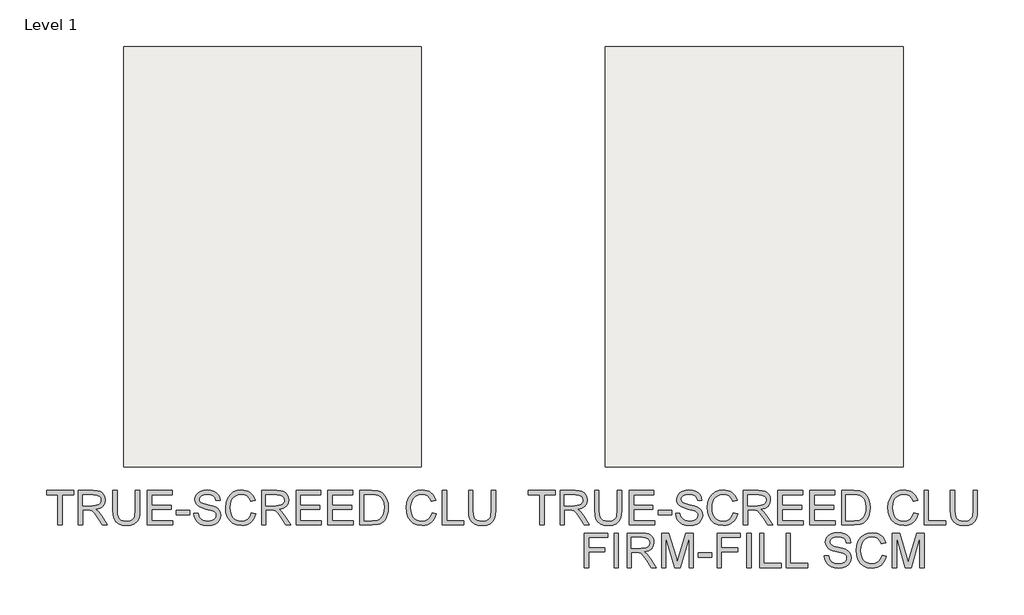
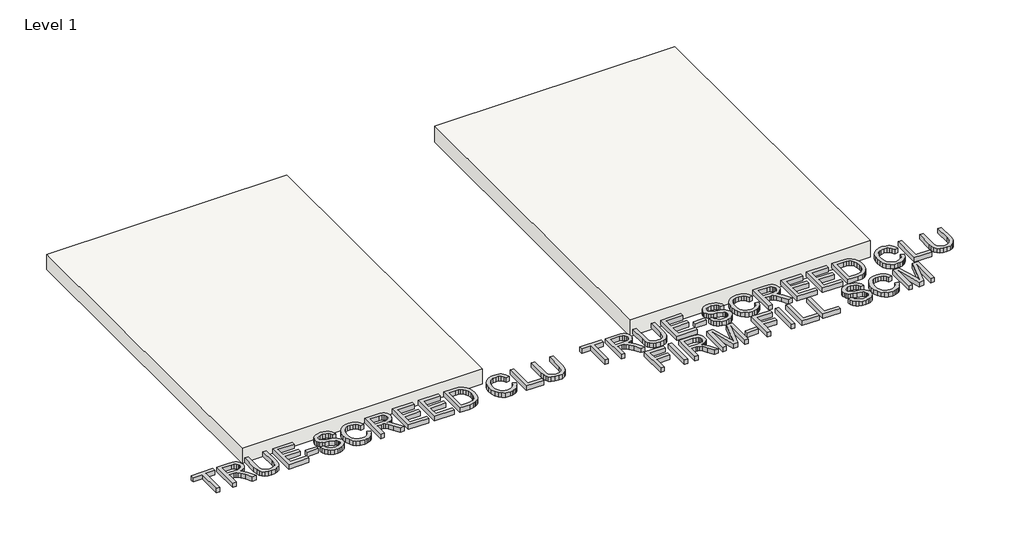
# One storey: 2 proxies, 2 slabs.
"""IFC4 building model written with IfcOpenShell, lengths in millimetres."""

import ifcopenshell
import ifcopenshell.guid

model = None  # the IFC model being written
_history = None  # IfcOwnerHistory: only IFC2X3 demands one
_inside = {}  # id of a spatial element -> (the spatial element, [elements in it])
_under = {}  # id of a project, library or spatial element -> (it, [spatial elements below it])
_declared = {}  # id of a project -> (the project, [libraries it declares])
_typed = {}  # id of a type object -> (the type object, [elements of that type])
_made_of = {}  # id of a material, layer set ... -> (it, [elements and type objects made of it])


def new_model(schema):
    """Start an empty IFC model of exactly this schema.

    Asked for "IFC4X3", IfcOpenShell would pick the latest addendum, in which some entities
    have other attributes; the version numbers below select the first issue.
    IFC2X3 requires an IfcOwnerHistory on every rooted entity: one is made here for all.
    """
    global model, _history
    if schema == "IFC4X3":
        model = ifcopenshell.file(schema_version=(4, 3, 0, 0))
    else:
        model = ifcopenshell.file(schema=schema)
    _inside.clear()
    _under.clear()
    _declared.clear()
    _typed.clear()
    _made_of.clear()
    _history = None
    if model.schema == "IFC2X3":
        org = make("IfcOrganization", Name="unknown")
        user = make(
            "IfcPersonAndOrganization",
            ThePerson=make("IfcPerson", FamilyName="unknown"),
            TheOrganization=org,
        )
        app = make(
            "IfcApplication",
            ApplicationDeveloper=org,
            Version="unknown",
            ApplicationFullName="unknown",
            ApplicationIdentifier="unknown",
        )
        _history = make(
            "IfcOwnerHistory",
            OwningUser=user,
            OwningApplication=app,
            ChangeAction="ADDED",
            CreationDate=0,
        )
    return model


def make(cls, **values):
    """One entity of the class cls with the attributes given. An attribute that is None is left unset."""
    return model.create_entity(
        cls, **{name: value for name, value in values.items() if value is not None}
    )


def rooted(cls, **values):
    """An entity with a GlobalId (a new one), such as an element, a storey or a relation."""
    return make(cls, GlobalId=ifcopenshell.guid.new(), OwnerHistory=_history, **values)


def si_unit(unit_type, name, prefix=None):
    """IfcSIUnit, for example si_unit("LENGTHUNIT", "METRE", prefix="MILLI")."""
    return make("IfcSIUnit", UnitType=unit_type, Prefix=prefix, Name=name)


def assignment(units):
    """IfcUnitAssignment: the units of a project."""
    return None if units is None else make("IfcUnitAssignment", Units=units)


def point(xyz):
    """IfcCartesianPoint."""
    return None if xyz is None else make("IfcCartesianPoint", Coordinates=xyz)


def direction(xyz):
    """IfcDirection."""
    return None if xyz is None else make("IfcDirection", DirectionRatios=xyz)


def frame(location, z_axis=None, x_axis=None):
    """IfcAxis2Placement3D, a coordinate frame: its origin and axes. An axis left out is left unset."""
    return make(
        "IfcAxis2Placement3D",
        Location=point(location),
        Axis=direction(z_axis),
        RefDirection=direction(x_axis),
    )


def origin():
    """The frame at (0, 0, 0) with its axes left unset."""
    return frame((0.0, 0.0, 0.0))


def origin_with_axes():
    """The frame at (0, 0, 0) with the z axis (0, 0, 1) and the x axis (1, 0, 0) written out."""
    return frame((0.0, 0.0, 0.0), z_axis=(0.0, 0.0, 1.0), x_axis=(1.0, 0.0, 0.0))


def place(relative_to, where):
    """IfcLocalPlacement: puts the frame where relative to a parent placement (None: the world)."""
    return make(
        "IfcLocalPlacement", PlacementRelTo=relative_to, RelativePlacement=where
    )


def context(
    kind, dimensions, precision=None, world=None, true_north=None, identifier=None
):
    """IfcGeometricRepresentationContext, for example the 3D "Model" context."""
    return make(
        "IfcGeometricRepresentationContext",
        ContextIdentifier=identifier,
        ContextType=kind,
        CoordinateSpaceDimension=dimensions,
        Precision=precision,
        WorldCoordinateSystem=world,
        TrueNorth=true_north,
    )


def project(units=None, contexts=None):
    """IfcProject with its units and contexts."""
    return rooted(
        "IfcProject",
        Name="project",
        RepresentationContexts=contexts,
        UnitsInContext=assignment(units),
    )


def spatial(cls, under=None, at=None, **own):
    """A site, building, storey or space (cls), placed at a placement, below another one or the project."""
    s = rooted(cls, ObjectPlacement=at, **own)
    if under is not None:
        _under.setdefault(under.id(), (under, []))[1].append(s)
    return s


def polyline(points):
    """IfcPolyline through the points."""
    return make("IfcPolyline", Points=[point(p) for p in points])


def outline(outer, holes=None, kind="AREA"):
    """IfcArbitraryClosedProfileDef: a profile drawn as a closed curve; with holes, ...WithVoids."""
    if holes is None:
        return make("IfcArbitraryClosedProfileDef", ProfileType=kind, OuterCurve=outer)
    return make(
        "IfcArbitraryProfileDefWithVoids",
        ProfileType=kind,
        OuterCurve=outer,
        InnerCurves=holes,
    )


def extrude(swept, where, along, depth):
    """IfcExtrudedAreaSolid: the profile swept, set in the frame where, extruded along a direction by depth."""
    return make(
        "IfcExtrudedAreaSolid",
        SweptArea=swept,
        Position=where,
        ExtrudedDirection=direction(along),
        Depth=depth,
    )


def shape(context_of_items, identifier, shape_type, items):
    """IfcShapeRepresentation: the items that make up one representation, for example the "Body"."""
    return make(
        "IfcShapeRepresentation",
        ContextOfItems=context_of_items,
        RepresentationIdentifier=identifier,
        RepresentationType=shape_type,
        Items=items,
    )


def made_of(thing, what):
    """Note that an element or type object is made of a material, layer set ...; save() writes the relation."""
    if what is not None:
        _made_of.setdefault(what.id(), (what, []))[1].append(thing)
    return thing


def element(
    cls,
    number,
    at=None,
    inside=None,
    cuts=None,
    type_object=None,
    material=None,
    context=None,
    identifier="Body",
    shape_type=None,
    held_by="IfcProductDefinitionShape",
    body=None,
    shapes=None,
    **own,
):
    """One element of the class cls, such as IfcWall. Its Tag is "e" and its number.

    at: its placement. inside: the storey or other place that contains it. cuts: it is an
    opening in that element (IfcRelVoidsElement). A single representation is given by context,
    identifier, shape_type and body (its items); several are given by shapes. held_by: the class
    of the entity that holds the representations. save() writes the other relations.
    """
    e = rooted(cls, Tag="e%d" % number, ObjectPlacement=at, **own)
    if body is not None:
        shapes = [shape(context, identifier, shape_type, body)]
    if shapes is not None:
        e.Representation = make(held_by, Representations=shapes)
    if inside is not None:
        _inside.setdefault(inside.id(), (inside, []))[1].append(e)
    if cuts is not None:
        rooted(
            "IfcRelVoidsElement", RelatingBuildingElement=cuts, RelatedOpeningElement=e
        )
    if type_object is not None:
        _typed.setdefault(type_object.id(), (type_object, []))[1].append(e)
    return made_of(e, material)


def aggregate(whole, parts):
    """IfcRelAggregates: a whole, such as a stair, and the parts it consists of."""
    return rooted("IfcRelAggregates", RelatingObject=whole, RelatedObjects=parts)


def save(model, path):
    """Write the relations noted so far, then the file.

    IfcRelAggregates (storeys below a building ...), IfcRelContainedInSpatialStructure (elements
    in a storey), IfcRelDefinesByType, IfcRelAssociatesMaterial and IfcRelDeclares: one each for
    every whole, place, type object, material and project.
    """
    for whole, parts in _under.values():
        aggregate(whole, parts)
    for where, things in _inside.values():
        rooted(
            "IfcRelContainedInSpatialStructure",
            RelatedElements=things,
            RelatingStructure=where,
        )
    for kind, things in _typed.values():
        rooted("IfcRelDefinesByType", RelatedObjects=things, RelatingType=kind)
    for what, things in _made_of.values():
        rooted("IfcRelAssociatesMaterial", RelatedObjects=things, RelatingMaterial=what)
    for by, libraries in _declared.values():
        rooted("IfcRelDeclares", RelatingContext=by, RelatedDefinitions=libraries)
    model.write(path)


model = new_model("IFC4")

# Units and contexts
model_context = context("Model", 3, world=origin())
ifc_project = project(units=[si_unit("LENGTHUNIT", "METRE", prefix="MILLI")], contexts=[model_context])

# Site, building, storey
site = spatial("IfcSite", under=ifc_project)
building = spatial("IfcBuilding", under=site)
storey = spatial("IfcBuildingStorey", under=building, Name="Level 1", Elevation=0.0)

# Proxies
placement = place(None, origin())
element("IfcBuildingElementProxy", 1, Name="600mm Arial", ObjectType="600mm Arial", at=placement, inside=storey, context=model_context, shape_type="SweptSolid", body=[
    extrude(outline(polyline([(-12285.7375133, -4415.8084594), (-12285.7375133, -4153.2115363), (-12384.2113594, -4153.2115363), (-12384.2113594, -4115.6976902), (-12149.749821, -4115.6976902), (-12149.749821, -4153.2115363), (-12248.2236671, -4153.2115363), (-12248.2236671, -4415.8084594), (-12285.7375133, -4415.8084594)])), origin_with_axes(), (0.0, 0.0, 1.0), 50.8),
    extrude(outline(polyline([(-12107.5467441, -4415.8084594), (-12107.5467441, -4115.6976902), (-11978.2265518, -4115.6976902), (-11943.4694604, -4117.7217527), (-11918.1824171, -4123.7939402), (-11899.7002537, -4135.0041325), (-11885.3578018, -4152.4422094), (-11876.1533546, -4174.0657911), (-11873.0852056, -4197.8324979), (-11878.1682585, -4227.3966325), (-11893.4174171, -4251.9051902), (-11904.9687693, -4261.8927022), (-11919.2906143, -4269.874469), (-11956.2457825, -4279.8207671), (-11934.9244364, -4295.8667286), (-11904.5177056, -4334.4796133), (-11854.474821, -4415.8084594), (-11898.0700133, -4415.8084594), (-11937.1225133, -4353.6028825), (-11965.3311671, -4312.4255748), (-11985.1504941, -4292.972594), (-12002.9915518, -4285.828844), (-12024.7525133, -4284.5099979), (-12070.0328979, -4284.5099979), (-12070.0328979, -4415.8084594), (-12107.5467441, -4415.8084594)]), holes=[polyline([(-12070.0328979, -4246.9961517), (-11986.0663594, -4246.9961517), (-11961.9516239, -4245.6681469), (-11943.2404941, -4241.6841325), (-11929.1544844, -4234.7785075), (-11918.9151094, -4224.685671), (-11912.6780662, -4212.4771854), (-11910.5990518, -4199.2246133), (-11914.5647489, -4180.9256229), (-11926.4618402, -4166.1801902), (-11946.9314316, -4156.4536998), (-11976.6146287, -4153.2115363), (-12070.0328979, -4153.2115363), (-12070.0328979, -4246.9961517)])]), origin_with_axes(), (0.0, 0.0, 1.0), 50.8),
    extrude(outline(polyline([(-11610.4882825, -4115.6976902), (-11572.9744364, -4115.6976902), (-11572.9744364, -4288.8328825), (-11575.5205421, -4329.3782431), (-11583.1588594, -4360.600094), (-11597.4280421, -4384.6873536), (-11619.8667441, -4403.8289402), (-11650.5299171, -4416.3305027), (-11689.4725133, -4420.4976902), (-11727.5633546, -4416.8708633), (-11758.0158787, -4405.9903825), (-11780.8392441, -4388.2317527), (-11796.0426094, -4363.9704786), (-11804.5876335, -4331.4297815), (-11807.4359748, -4288.8328825), (-11807.4359748, -4115.6976902), (-11769.9221287, -4115.6976902), (-11769.9221287, -4287.5140363), (-11768.0720806, -4321.2270411), (-11762.5219364, -4344.700671), (-11752.4657344, -4360.9572815), (-11737.0975133, -4373.0192286), (-11717.0583787, -4380.4926902), (-11692.9894364, -4382.983844), (-11654.8344844, -4378.0564883), (-11640.5515638, -4371.8972935), (-11629.4650133, -4363.274421), (-11621.1626936, -4351.1483633), (-11615.2324652, -4334.4796133), (-11610.4882825, -4287.5140363), (-11610.4882825, -4115.6976902)])), origin_with_axes(), (0.0, 0.0, 1.0), 50.8),
    extrude(outline(polyline([(-11507.3252056, -4415.8084594), (-11507.3252056, -4115.6976902), (-11291.6205902, -4115.6976902), (-11291.6205902, -4153.2115363), (-11469.8113594, -4153.2115363), (-11469.8113594, -4242.306921), (-11300.9990518, -4242.306921), (-11300.9990518, -4279.8207671), (-11469.8113594, -4279.8207671), (-11469.8113594, -4378.2946133), (-11286.9313594, -4378.2946133), (-11286.9313594, -4415.8084594), (-11507.3252056, -4415.8084594)])), origin_with_axes(), (0.0, 0.0, 1.0), 50.8),
    extrude(outline(polyline([(-11254.1067441, -4326.7130748), (-11254.1067441, -4289.1992286), (-11136.8759748, -4289.1992286), (-11136.8759748, -4326.7130748), (-11254.1067441, -4326.7130748)])), origin_with_axes(), (0.0, 0.0, 1.0), 50.8),
    extrude(outline(polyline([(-11104.0513594, -4312.6453825), (-11066.5375133, -4312.6453825), (-11062.232946, -4333.4630027), (-11054.4480902, -4350.1958633), (-11042.3037152, -4363.4759113), (-11024.9205902, -4373.935094), (-11003.6725133, -4380.7216565), (-10979.9332825, -4382.983844), (-10959.0332344, -4381.2711758), (-10940.7342441, -4376.133171), (-10925.9063835, -4368.0002863), (-10915.4197248, -4357.3029786), (-10909.1826816, -4345.0212238), (-10907.1036671, -4332.1349979), (-10908.6606383, -4319.5784835), (-10913.3315518, -4308.7254786), (-10922.8199171, -4299.4660796), (-10938.8292441, -4291.6903825), (-10993.4514556, -4277.3662479), (-11029.3075854, -4267.8870411), (-11052.2500133, -4258.8657671), (-11070.9245085, -4246.2451421), (-11084.1587633, -4230.9501902), (-11092.0443643, -4213.3106229), (-11094.6728979, -4193.6561517), (-11091.4215758, -4171.6845411), (-11081.6676094, -4151.1966325), (-11065.6674412, -4133.8318248), (-11043.6775133, -4121.2295171), (-11017.2822729, -4113.5637238), (-10988.0661671, -4111.0084594), (-10956.4138594, -4113.6827863), (-10928.7180902, -4121.7057671), (-10905.9679941, -4134.912546), (-10889.1527056, -4153.1382671), (-10878.5103498, -4175.2472575), (-10874.2790518, -4200.103844), (-10911.7928979, -4200.103844), (-10918.6802056, -4177.720094), (-10933.0409748, -4161.5642286), (-10955.4796768, -4151.7827863), (-10986.6007825, -4148.5223056), (-11018.4545806, -4151.7461517), (-11040.3071287, -4161.4176902), (-11052.946071, -4175.6502383), (-11057.1590518, -4192.5571133), (-11054.1733306, -4206.9728344), (-11045.2161671, -4218.5676902), (-11024.0413594, -4228.9352863), (-10983.9630902, -4239.5226902), (-10942.6026094, -4249.5788921), (-10917.5811671, -4258.3528825), (-10896.1957104, -4271.9626421), (-10881.2762633, -4288.7596133), (-10872.5114316, -4308.5606229), (-10869.589821, -4331.1824979), (-10872.9510469, -4354.3080988), (-10883.0347248, -4376.0599017), (-10899.4287152, -4394.7801902), (-10921.7208787, -4408.8112479), (-10948.5282585, -4417.5760796), (-10978.4678979, -4420.4976902), (-11015.2215758, -4417.3471133), (-11045.4726094, -4407.8953825), (-11069.5690277, -4392.1058633), (-11087.8588594, -4369.941921), (-11099.6002537, -4342.9422094), (-11104.0513594, -4312.6453825)])), origin_with_axes(), (0.0, 0.0, 1.0), 50.8),
    extrude(outline(polyline([(-10602.3036671, -4309.1284594), (-10564.789821, -4318.7999979), (-10572.2129099, -4342.1293789), (-10582.0996768, -4362.5142527), (-10594.4501215, -4379.9546193), (-10609.2642441, -4394.4504786), (-10626.2077537, -4405.8461337), (-10644.9463594, -4413.9858873), (-10665.4800614, -4418.8697395), (-10687.8088594, -4420.4976902), (-10731.3216239, -4415.5703344), (-10765.8772248, -4400.7882671), (-10792.3640518, -4376.6643729), (-10811.6704941, -4343.7115363), (-10823.4576816, -4304.9704306), (-10827.3867441, -4263.4817286), (-10822.9447969, -4219.7216806), (-10809.6189556, -4181.9330748), (-10788.1052777, -4151.315695), (-10759.099821, -4129.0693248), (-10724.6999171, -4115.5236758), (-10687.0028979, -4111.0084594), (-10645.8713835, -4116.8516806), (-10627.9776635, -4124.155707), (-10611.8653018, -4134.381344), (-10597.7998991, -4147.2584113), (-10586.0470566, -4162.5167286), (-10569.4790518, -4200.1771133), (-10606.9928979, -4209.1159594), (-10619.9981864, -4181.7590604), (-10637.7659748, -4162.9929786), (-10660.516071, -4152.1399738), (-10688.4682825, -4148.5223056), (-10720.6884268, -4152.533796), (-10747.1569364, -4164.5682671), (-10767.2418643, -4183.3618248), (-10780.3112633, -4207.6505748), (-10787.4824893, -4235.108219), (-10789.8728979, -4263.4084594), (-10787.0428739, -4298.0648056), (-10778.5528018, -4328.031921), (-10764.0821287, -4352.1649738), (-10743.3103018, -4369.3191325), (-10718.4079219, -4379.5676661), (-10691.5455902, -4382.983844), (-10660.2321527, -4378.3312479), (-10634.1391479, -4364.3734594), (-10614.4388835, -4341.2570171), (-10602.3036671, -4309.1284594)])), origin_with_axes(), (0.0, 0.0, 1.0), 50.8),
    extrude(outline(polyline([(-10513.2082825, -4415.8084594), (-10513.2082825, -4115.6976902), (-10383.8880902, -4115.6976902), (-10349.1309989, -4117.7217527), (-10323.8439556, -4123.7939402), (-10305.3617921, -4135.0041325), (-10291.0193402, -4152.4422094), (-10281.8148931, -4174.0657911), (-10278.7467441, -4197.8324979), (-10283.8297969, -4227.3966325), (-10299.0789556, -4251.9051902), (-10310.6303078, -4261.8927022), (-10324.9521527, -4269.874469), (-10361.907321, -4279.8207671), (-10340.5859748, -4295.8667286), (-10310.1792441, -4334.4796133), (-10260.1363594, -4415.8084594), (-10303.7315518, -4415.8084594), (-10342.7840518, -4353.6028825), (-10370.9927056, -4312.4255748), (-10390.8120325, -4292.972594), (-10408.6530902, -4285.828844), (-10430.4140518, -4284.5099979), (-10475.6944364, -4284.5099979), (-10475.6944364, -4415.8084594), (-10513.2082825, -4415.8084594)]), holes=[polyline([(-10475.6944364, -4246.9961517), (-10391.7278979, -4246.9961517), (-10367.6131623, -4245.6681469), (-10348.9020325, -4241.6841325), (-10334.8160229, -4234.7785075), (-10324.5766479, -4224.685671), (-10318.3396046, -4212.4771854), (-10316.2605902, -4199.2246133), (-10320.2262873, -4180.9256229), (-10332.1233787, -4166.1801902), (-10352.59297, -4156.4536998), (-10382.2761671, -4153.2115363), (-10475.6944364, -4153.2115363), (-10475.6944364, -4246.9961517)])]), origin_with_axes(), (0.0, 0.0, 1.0), 50.8),
    extrude(outline(polyline([(-10213.0975133, -4415.8084594), (-10213.0975133, -4115.6976902), (-9997.3928979, -4115.6976902), (-9997.3928979, -4153.2115363), (-10175.5836671, -4153.2115363), (-10175.5836671, -4242.306921), (-10006.7713594, -4242.306921), (-10006.7713594, -4279.8207671), (-10175.5836671, -4279.8207671), (-10175.5836671, -4378.2946133), (-9992.7036671, -4378.2946133), (-9992.7036671, -4415.8084594), (-10213.0975133, -4415.8084594)])), origin_with_axes(), (0.0, 0.0, 1.0), 50.8),
    extrude(outline(polyline([(-9936.4328979, -4415.8084594), (-9936.4328979, -4115.6976902), (-9720.7282825, -4115.6976902), (-9720.7282825, -4153.2115363), (-9898.9190518, -4153.2115363), (-9898.9190518, -4242.306921), (-9730.1067441, -4242.306921), (-9730.1067441, -4279.8207671), (-9898.9190518, -4279.8207671), (-9898.9190518, -4378.2946133), (-9716.0390518, -4378.2946133), (-9716.0390518, -4415.8084594), (-9936.4328979, -4415.8084594)])), origin_with_axes(), (0.0, 0.0, 1.0), 50.8),
    extrude(outline(polyline([(-9659.7682825, -4415.8084594), (-9659.7682825, -4115.6976902), (-9556.2388594, -4115.6976902), (-9502.6790518, -4120.0205748), (-9478.7566479, -4128.3549498), (-9458.5709748, -4141.4884594), (-9437.8174652, -4164.3484594), (-9423.0353979, -4192.776921), (-9414.1881383, -4226.2243248), (-9411.2390518, -4264.1411517), (-9413.2356383, -4296.3521373), (-9419.2253979, -4324.698171), (-9428.3474171, -4348.8312238), (-9439.7407825, -4368.4032671), (-9452.8559748, -4383.8539161), (-9467.1434748, -4395.6227863), (-9483.5466239, -4404.3509835), (-9503.0087633, -4410.6796133), (-9551.2565518, -4415.8084594), (-9659.7682825, -4415.8084594)]), holes=[polyline([(-9622.2544364, -4378.2946133), (-9555.8725133, -4378.2946133), (-9528.4148691, -4376.9391325), (-9507.5880902, -4372.8726902), (-9491.8718402, -4366.3334113), (-9479.7457825, -4357.559421), (-9466.7130181, -4341.3211277), (-9456.9224171, -4320.3020171), (-9450.7952777, -4294.4105027), (-9448.7528979, -4263.5549979), (-9452.7552296, -4222.6707671), (-9464.7622248, -4192.483844), (-9482.5025373, -4171.7486517), (-9503.704821, -4159.2196133), (-9525.2826094, -4154.7135556), (-9556.8982825, -4153.2115363), (-9622.2544364, -4153.2115363), (-9622.2544364, -4378.2946133)])]), origin_with_axes(), (0.0, 0.0, 1.0), 50.8),
    extrude(outline(polyline([(-9031.4113594, -4309.1284594), (-8993.8975133, -4318.7999979), (-9001.3206022, -4342.1293789), (-9011.2073691, -4362.5142527), (-9023.5578138, -4379.9546193), (-9038.3719364, -4394.4504786), (-9055.315446, -4405.8461337), (-9074.0540518, -4413.9858873), (-9094.5877537, -4418.8697395), (-9116.9165518, -4420.4976902), (-9160.4293162, -4415.5703344), (-9194.9849171, -4400.7882671), (-9221.4717441, -4376.6643729), (-9240.7781864, -4343.7115363), (-9252.5653739, -4304.9704306), (-9256.4944364, -4263.4817286), (-9252.0524893, -4219.7216806), (-9238.7266479, -4181.9330748), (-9217.21297, -4151.315695), (-9188.2075133, -4129.0693248), (-9153.8076094, -4115.5236758), (-9116.1105902, -4111.0084594), (-9074.9790758, -4116.8516806), (-9057.0853558, -4124.155707), (-9040.9729941, -4134.381344), (-9026.9075914, -4147.2584113), (-9015.1547489, -4162.5167286), (-8998.5867441, -4200.1771133), (-9036.1005902, -4209.1159594), (-9049.1058787, -4181.7590604), (-9066.8736671, -4162.9929786), (-9089.6237633, -4152.1399738), (-9117.5759748, -4148.5223056), (-9149.7961191, -4152.533796), (-9176.2646287, -4164.5682671), (-9196.3495566, -4183.3618248), (-9209.4189556, -4207.6505748), (-9216.5901816, -4235.108219), (-9218.9805902, -4263.4084594), (-9216.1505662, -4298.0648056), (-9207.6604941, -4328.031921), (-9193.189821, -4352.1649738), (-9172.4179941, -4369.3191325), (-9147.5156143, -4379.5676661), (-9120.6532825, -4382.983844), (-9089.339845, -4378.3312479), (-9063.2468402, -4364.3734594), (-9043.5465758, -4341.2570171), (-9031.4113594, -4309.1284594)])), origin_with_axes(), (0.0, 0.0, 1.0), 50.8),
    extrude(outline(polyline([(-8942.3159748, -4415.8084594), (-8942.3159748, -4115.6976902), (-8904.8021287, -4115.6976902), (-8904.8021287, -4378.2946133), (-8754.7467441, -4378.2946133), (-8754.7467441, -4415.8084594), (-8942.3159748, -4415.8084594)])), origin_with_axes(), (0.0, 0.0, 1.0), 50.8),
    extrude(outline(polyline([(-8515.5959748, -4115.6976902), (-8478.0821287, -4115.6976902), (-8478.0821287, -4288.8328825), (-8480.6282344, -4329.3782431), (-8488.2665518, -4360.600094), (-8502.5357344, -4384.6873536), (-8524.9744364, -4403.8289402), (-8555.6376094, -4416.3305027), (-8594.5802056, -4420.4976902), (-8632.6710469, -4416.8708633), (-8663.123571, -4405.9903825), (-8685.9469364, -4388.2317527), (-8701.1503018, -4363.9704786), (-8709.6953258, -4331.4297815), (-8712.5436671, -4288.8328825), (-8712.5436671, -4115.6976902), (-8675.029821, -4115.6976902), (-8675.029821, -4287.5140363), (-8673.1797729, -4321.2270411), (-8667.6296287, -4344.700671), (-8657.5734268, -4360.9572815), (-8642.2052056, -4373.0192286), (-8622.166071, -4380.4926902), (-8598.0971287, -4382.983844), (-8559.9421768, -4378.0564883), (-8545.6592561, -4371.8972935), (-8534.5727056, -4363.274421), (-8526.2703859, -4351.1483633), (-8520.3401575, -4334.4796133), (-8515.5959748, -4287.5140363), (-8515.5959748, -4115.6976902)])), origin_with_axes(), (0.0, 0.0, 1.0), 50.8),
])
element("IfcBuildingElementProxy", 2, Name="600mm Arial", ObjectType="600mm Arial", at=placement, inside=storey, context=model_context, shape_type="SweptSolid", body=[
    extrude(outline(polyline([(-8094.7375133, -4415.8084594), (-8094.7375133, -4153.2115363), (-8193.2113594, -4153.2115363), (-8193.2113594, -4115.6976902), (-7958.749821, -4115.6976902), (-7958.749821, -4153.2115363), (-8057.2236671, -4153.2115363), (-8057.2236671, -4415.8084594), (-8094.7375133, -4415.8084594)])), origin_with_axes(), (0.0, 0.0, 1.0), 50.8),
    extrude(outline(polyline([(-7916.5467441, -4415.8084594), (-7916.5467441, -4115.6976902), (-7787.2265518, -4115.6976902), (-7752.4694604, -4117.7217527), (-7727.1824171, -4123.7939402), (-7708.7002537, -4135.0041325), (-7694.3578018, -4152.4422094), (-7685.1533546, -4174.0657911), (-7682.0852056, -4197.8324979), (-7687.1682585, -4227.3966325), (-7702.4174171, -4251.9051902), (-7713.9687693, -4261.8927022), (-7728.2906143, -4269.874469), (-7765.2457825, -4279.8207671), (-7743.9244364, -4295.8667286), (-7713.5177056, -4334.4796133), (-7663.474821, -4415.8084594), (-7707.0700133, -4415.8084594), (-7746.1225133, -4353.6028825), (-7774.3311671, -4312.4255748), (-7794.1504941, -4292.972594), (-7811.9915518, -4285.828844), (-7833.7525133, -4284.5099979), (-7879.0328979, -4284.5099979), (-7879.0328979, -4415.8084594), (-7916.5467441, -4415.8084594)]), holes=[polyline([(-7879.0328979, -4246.9961517), (-7795.0663594, -4246.9961517), (-7770.9516239, -4245.6681469), (-7752.2404941, -4241.6841325), (-7738.1544844, -4234.7785075), (-7727.9151094, -4224.685671), (-7721.6780662, -4212.4771854), (-7719.5990518, -4199.2246133), (-7723.5647489, -4180.9256229), (-7735.4618402, -4166.1801902), (-7755.9314316, -4156.4536998), (-7785.6146287, -4153.2115363), (-7879.0328979, -4153.2115363), (-7879.0328979, -4246.9961517)])]), origin_with_axes(), (0.0, 0.0, 1.0), 50.8),
    extrude(outline(polyline([(-7419.4882825, -4115.6976902), (-7381.9744364, -4115.6976902), (-7381.9744364, -4288.8328825), (-7384.5205421, -4329.3782431), (-7392.1588594, -4360.600094), (-7406.4280421, -4384.6873536), (-7428.8667441, -4403.8289402), (-7459.5299171, -4416.3305027), (-7498.4725133, -4420.4976902), (-7536.5633546, -4416.8708633), (-7567.0158787, -4405.9903825), (-7589.8392441, -4388.2317527), (-7605.0426094, -4363.9704786), (-7613.5876335, -4331.4297815), (-7616.4359748, -4288.8328825), (-7616.4359748, -4115.6976902), (-7578.9221287, -4115.6976902), (-7578.9221287, -4287.5140363), (-7577.0720806, -4321.2270411), (-7571.5219364, -4344.700671), (-7561.4657344, -4360.9572815), (-7546.0975133, -4373.0192286), (-7526.0583787, -4380.4926902), (-7501.9894364, -4382.983844), (-7463.8344844, -4378.0564883), (-7449.5515638, -4371.8972935), (-7438.4650133, -4363.274421), (-7430.1626936, -4351.1483633), (-7424.2324652, -4334.4796133), (-7419.4882825, -4287.5140363), (-7419.4882825, -4115.6976902)])), origin_with_axes(), (0.0, 0.0, 1.0), 50.8),
    extrude(outline(polyline([(-7316.3252056, -4415.8084594), (-7316.3252056, -4115.6976902), (-7100.6205902, -4115.6976902), (-7100.6205902, -4153.2115363), (-7278.8113594, -4153.2115363), (-7278.8113594, -4242.306921), (-7109.9990518, -4242.306921), (-7109.9990518, -4279.8207671), (-7278.8113594, -4279.8207671), (-7278.8113594, -4378.2946133), (-7095.9313594, -4378.2946133), (-7095.9313594, -4415.8084594), (-7316.3252056, -4415.8084594)])), origin_with_axes(), (0.0, 0.0, 1.0), 50.8),
    extrude(outline(polyline([(-7063.1067441, -4326.7130748), (-7063.1067441, -4289.1992286), (-6945.8759748, -4289.1992286), (-6945.8759748, -4326.7130748), (-7063.1067441, -4326.7130748)])), origin_with_axes(), (0.0, 0.0, 1.0), 50.8),
    extrude(outline(polyline([(-6913.0513594, -4312.6453825), (-6875.5375133, -4312.6453825), (-6871.232946, -4333.4630027), (-6863.4480902, -4350.1958633), (-6851.3037152, -4363.4759113), (-6833.9205902, -4373.935094), (-6812.6725133, -4380.7216565), (-6788.9332825, -4382.983844), (-6768.0332344, -4381.2711758), (-6749.7342441, -4376.133171), (-6734.9063835, -4368.0002863), (-6724.4197248, -4357.3029786), (-6718.1826816, -4345.0212238), (-6716.1036671, -4332.1349979), (-6717.6606383, -4319.5784835), (-6722.3315518, -4308.7254786), (-6731.8199171, -4299.4660796), (-6747.8292441, -4291.6903825), (-6802.4514556, -4277.3662479), (-6838.3075854, -4267.8870411), (-6861.2500133, -4258.8657671), (-6879.9245085, -4246.2451421), (-6893.1587633, -4230.9501902), (-6901.0443643, -4213.3106229), (-6903.6728979, -4193.6561517), (-6900.4215758, -4171.6845411), (-6890.6676094, -4151.1966325), (-6874.6674412, -4133.8318248), (-6852.6775133, -4121.2295171), (-6826.2822729, -4113.5637238), (-6797.0661671, -4111.0084594), (-6765.4138594, -4113.6827863), (-6737.7180902, -4121.7057671), (-6714.9679941, -4134.912546), (-6698.1527056, -4153.1382671), (-6687.5103498, -4175.2472575), (-6683.2790518, -4200.103844), (-6720.7928979, -4200.103844), (-6727.6802056, -4177.720094), (-6742.0409748, -4161.5642286), (-6764.4796768, -4151.7827863), (-6795.6007825, -4148.5223056), (-6827.4545806, -4151.7461517), (-6849.3071287, -4161.4176902), (-6861.946071, -4175.6502383), (-6866.1590518, -4192.5571133), (-6863.1733306, -4206.9728344), (-6854.2161671, -4218.5676902), (-6833.0413594, -4228.9352863), (-6792.9630902, -4239.5226902), (-6751.6026094, -4249.5788921), (-6726.5811671, -4258.3528825), (-6705.1957104, -4271.9626421), (-6690.2762633, -4288.7596133), (-6681.5114316, -4308.5606229), (-6678.589821, -4331.1824979), (-6681.9510469, -4354.3080988), (-6692.0347248, -4376.0599017), (-6708.4287152, -4394.7801902), (-6730.7208787, -4408.8112479), (-6757.5282585, -4417.5760796), (-6787.4678979, -4420.4976902), (-6824.2215758, -4417.3471133), (-6854.4726094, -4407.8953825), (-6878.5690277, -4392.1058633), (-6896.8588594, -4369.941921), (-6908.6002537, -4342.9422094), (-6913.0513594, -4312.6453825)])), origin_with_axes(), (0.0, 0.0, 1.0), 50.8),
    extrude(outline(polyline([(-6411.3036671, -4309.1284594), (-6373.789821, -4318.7999979), (-6381.2129099, -4342.1293789), (-6391.0996768, -4362.5142527), (-6403.4501215, -4379.9546193), (-6418.2642441, -4394.4504786), (-6435.2077537, -4405.8461337), (-6453.9463594, -4413.9858873), (-6474.4800614, -4418.8697395), (-6496.8088594, -4420.4976902), (-6540.3216239, -4415.5703344), (-6574.8772248, -4400.7882671), (-6601.3640518, -4376.6643729), (-6620.6704941, -4343.7115363), (-6632.4576816, -4304.9704306), (-6636.3867441, -4263.4817286), (-6631.9447969, -4219.7216806), (-6618.6189556, -4181.9330748), (-6597.1052777, -4151.315695), (-6568.099821, -4129.0693248), (-6533.6999171, -4115.5236758), (-6496.0028979, -4111.0084594), (-6454.8713835, -4116.8516806), (-6436.9776635, -4124.155707), (-6420.8653018, -4134.381344), (-6406.7998991, -4147.2584113), (-6395.0470566, -4162.5167286), (-6378.4790518, -4200.1771133), (-6415.9928979, -4209.1159594), (-6428.9981864, -4181.7590604), (-6446.7659748, -4162.9929786), (-6469.516071, -4152.1399738), (-6497.4682825, -4148.5223056), (-6529.6884268, -4152.533796), (-6556.1569364, -4164.5682671), (-6576.2418643, -4183.3618248), (-6589.3112633, -4207.6505748), (-6596.4824893, -4235.108219), (-6598.8728979, -4263.4084594), (-6596.0428739, -4298.0648056), (-6587.5528018, -4328.031921), (-6573.0821287, -4352.1649738), (-6552.3103018, -4369.3191325), (-6527.4079219, -4379.5676661), (-6500.5455902, -4382.983844), (-6469.2321527, -4378.3312479), (-6443.1391479, -4364.3734594), (-6423.4388835, -4341.2570171), (-6411.3036671, -4309.1284594)])), origin_with_axes(), (0.0, 0.0, 1.0), 50.8),
    extrude(outline(polyline([(-6322.2082825, -4415.8084594), (-6322.2082825, -4115.6976902), (-6192.8880902, -4115.6976902), (-6158.1309989, -4117.7217527), (-6132.8439556, -4123.7939402), (-6114.3617921, -4135.0041325), (-6100.0193402, -4152.4422094), (-6090.8148931, -4174.0657911), (-6087.7467441, -4197.8324979), (-6092.8297969, -4227.3966325), (-6108.0789556, -4251.9051902), (-6119.6303078, -4261.8927022), (-6133.9521527, -4269.874469), (-6170.907321, -4279.8207671), (-6149.5859748, -4295.8667286), (-6119.1792441, -4334.4796133), (-6069.1363594, -4415.8084594), (-6112.7315518, -4415.8084594), (-6151.7840518, -4353.6028825), (-6179.9927056, -4312.4255748), (-6199.8120325, -4292.972594), (-6217.6530902, -4285.828844), (-6239.4140518, -4284.5099979), (-6284.6944364, -4284.5099979), (-6284.6944364, -4415.8084594), (-6322.2082825, -4415.8084594)]), holes=[polyline([(-6284.6944364, -4246.9961517), (-6200.7278979, -4246.9961517), (-6176.6131623, -4245.6681469), (-6157.9020325, -4241.6841325), (-6143.8160229, -4234.7785075), (-6133.5766479, -4224.685671), (-6127.3396046, -4212.4771854), (-6125.2605902, -4199.2246133), (-6129.2262873, -4180.9256229), (-6141.1233787, -4166.1801902), (-6161.59297, -4156.4536998), (-6191.2761671, -4153.2115363), (-6284.6944364, -4153.2115363), (-6284.6944364, -4246.9961517)])]), origin_with_axes(), (0.0, 0.0, 1.0), 50.8),
    extrude(outline(polyline([(-6022.0975133, -4415.8084594), (-6022.0975133, -4115.6976902), (-5806.3928979, -4115.6976902), (-5806.3928979, -4153.2115363), (-5984.5836671, -4153.2115363), (-5984.5836671, -4242.306921), (-5815.7713594, -4242.306921), (-5815.7713594, -4279.8207671), (-5984.5836671, -4279.8207671), (-5984.5836671, -4378.2946133), (-5801.7036671, -4378.2946133), (-5801.7036671, -4415.8084594), (-6022.0975133, -4415.8084594)])), origin_with_axes(), (0.0, 0.0, 1.0), 50.8),
    extrude(outline(polyline([(-5745.4328979, -4415.8084594), (-5745.4328979, -4115.6976902), (-5529.7282825, -4115.6976902), (-5529.7282825, -4153.2115363), (-5707.9190518, -4153.2115363), (-5707.9190518, -4242.306921), (-5539.1067441, -4242.306921), (-5539.1067441, -4279.8207671), (-5707.9190518, -4279.8207671), (-5707.9190518, -4378.2946133), (-5525.0390518, -4378.2946133), (-5525.0390518, -4415.8084594), (-5745.4328979, -4415.8084594)])), origin_with_axes(), (0.0, 0.0, 1.0), 50.8),
    extrude(outline(polyline([(-5468.7682825, -4415.8084594), (-5468.7682825, -4115.6976902), (-5365.2388594, -4115.6976902), (-5311.6790518, -4120.0205748), (-5287.7566479, -4128.3549498), (-5267.5709748, -4141.4884594), (-5246.8174652, -4164.3484594), (-5232.0353979, -4192.776921), (-5223.1881383, -4226.2243248), (-5220.2390518, -4264.1411517), (-5222.2356383, -4296.3521373), (-5228.2253979, -4324.698171), (-5237.3474171, -4348.8312238), (-5248.7407825, -4368.4032671), (-5261.8559748, -4383.8539161), (-5276.1434748, -4395.6227863), (-5292.5466239, -4404.3509835), (-5312.0087633, -4410.6796133), (-5360.2565518, -4415.8084594), (-5468.7682825, -4415.8084594)]), holes=[polyline([(-5431.2544364, -4378.2946133), (-5364.8725133, -4378.2946133), (-5337.4148691, -4376.9391325), (-5316.5880902, -4372.8726902), (-5300.8718402, -4366.3334113), (-5288.7457825, -4357.559421), (-5275.7130181, -4341.3211277), (-5265.9224171, -4320.3020171), (-5259.7952777, -4294.4105027), (-5257.7528979, -4263.5549979), (-5261.7552296, -4222.6707671), (-5273.7622248, -4192.483844), (-5291.5025373, -4171.7486517), (-5312.704821, -4159.2196133), (-5334.2826094, -4154.7135556), (-5365.8982825, -4153.2115363), (-5431.2544364, -4153.2115363), (-5431.2544364, -4378.2946133)])]), origin_with_axes(), (0.0, 0.0, 1.0), 50.8),
    extrude(outline(polyline([(-4840.4113594, -4309.1284594), (-4802.8975133, -4318.7999979), (-4810.3206022, -4342.1293789), (-4820.2073691, -4362.5142527), (-4832.5578138, -4379.9546193), (-4847.3719364, -4394.4504786), (-4864.315446, -4405.8461337), (-4883.0540518, -4413.9858873), (-4903.5877537, -4418.8697395), (-4925.9165518, -4420.4976902), (-4969.4293162, -4415.5703344), (-5003.9849171, -4400.7882671), (-5030.4717441, -4376.6643729), (-5049.7781864, -4343.7115363), (-5061.5653739, -4304.9704306), (-5065.4944364, -4263.4817286), (-5061.0524893, -4219.7216806), (-5047.7266479, -4181.9330748), (-5026.21297, -4151.315695), (-4997.2075133, -4129.0693248), (-4962.8076094, -4115.5236758), (-4925.1105902, -4111.0084594), (-4883.9790758, -4116.8516806), (-4866.0853558, -4124.155707), (-4849.9729941, -4134.381344), (-4835.9075914, -4147.2584113), (-4824.1547489, -4162.5167286), (-4807.5867441, -4200.1771133), (-4845.1005902, -4209.1159594), (-4858.1058787, -4181.7590604), (-4875.8736671, -4162.9929786), (-4898.6237633, -4152.1399738), (-4926.5759748, -4148.5223056), (-4958.7961191, -4152.533796), (-4985.2646287, -4164.5682671), (-5005.3495566, -4183.3618248), (-5018.4189556, -4207.6505748), (-5025.5901816, -4235.108219), (-5027.9805902, -4263.4084594), (-5025.1505662, -4298.0648056), (-5016.6604941, -4328.031921), (-5002.189821, -4352.1649738), (-4981.4179941, -4369.3191325), (-4956.5156143, -4379.5676661), (-4929.6532825, -4382.983844), (-4898.339845, -4378.3312479), (-4872.2468402, -4364.3734594), (-4852.5465758, -4341.2570171), (-4840.4113594, -4309.1284594)])), origin_with_axes(), (0.0, 0.0, 1.0), 50.8),
    extrude(outline(polyline([(-4751.3159748, -4415.8084594), (-4751.3159748, -4115.6976902), (-4713.8021287, -4115.6976902), (-4713.8021287, -4378.2946133), (-4563.7467441, -4378.2946133), (-4563.7467441, -4415.8084594), (-4751.3159748, -4415.8084594)])), origin_with_axes(), (0.0, 0.0, 1.0), 50.8),
    extrude(outline(polyline([(-4324.5959748, -4115.6976902), (-4287.0821287, -4115.6976902), (-4287.0821287, -4288.8328825), (-4289.6282344, -4329.3782431), (-4297.2665518, -4360.600094), (-4311.5357344, -4384.6873536), (-4333.9744364, -4403.8289402), (-4364.6376094, -4416.3305027), (-4403.5802056, -4420.4976902), (-4441.6710469, -4416.8708633), (-4472.123571, -4405.9903825), (-4494.9469364, -4388.2317527), (-4510.1503018, -4363.9704786), (-4518.6953258, -4331.4297815), (-4521.5436671, -4288.8328825), (-4521.5436671, -4115.6976902), (-4484.029821, -4115.6976902), (-4484.029821, -4287.5140363), (-4482.1797729, -4321.2270411), (-4476.6296287, -4344.700671), (-4466.5734268, -4360.9572815), (-4451.2052056, -4373.0192286), (-4431.166071, -4380.4926902), (-4407.0971287, -4382.983844), (-4368.9421768, -4378.0564883), (-4354.6592561, -4371.8972935), (-4343.5727056, -4363.274421), (-4335.2703859, -4351.1483633), (-4329.3401575, -4334.4796133), (-4324.5959748, -4287.5140363), (-4324.5959748, -4115.6976902)])), origin_with_axes(), (0.0, 0.0, 1.0), 50.8),
    extrude(outline(polyline([(-7705.5313594, -4786.2576902), (-7705.5313594, -4486.146921), (-7503.8944364, -4486.146921), (-7503.8944364, -4523.6607671), (-7668.0175133, -4523.6607671), (-7668.0175133, -4612.7561517), (-7527.3405902, -4612.7561517), (-7527.3405902, -4650.2699979), (-7668.0175133, -4650.2699979), (-7668.0175133, -4786.2576902), (-7705.5313594, -4786.2576902)])), origin_with_axes(), (0.0, 0.0, 1.0), 50.8),
    extrude(outline(polyline([(-7447.6236671, -4786.2576902), (-7447.6236671, -4486.146921), (-7410.109821, -4486.146921), (-7410.109821, -4786.2576902), (-7447.6236671, -4786.2576902)])), origin_with_axes(), (0.0, 0.0, 1.0), 50.8),
    extrude(outline(polyline([(-7335.0821287, -4786.2576902), (-7335.0821287, -4486.146921), (-7205.7619364, -4486.146921), (-7171.004845, -4488.1709835), (-7145.7178018, -4494.243171), (-7127.2356383, -4505.4533633), (-7112.8931864, -4522.8914402), (-7103.6887393, -4544.5150219), (-7100.6205902, -4568.2817286), (-7105.7036431, -4597.8458633), (-7120.9528018, -4622.354421), (-7132.5041539, -4632.341933), (-7146.8259989, -4640.3236998), (-7183.7811671, -4650.2699979), (-7162.459821, -4666.3159594), (-7132.0530902, -4704.928844), (-7082.0102056, -4786.2576902), (-7125.6053979, -4786.2576902), (-7164.6578979, -4724.0521133), (-7192.8665518, -4682.8748056), (-7212.6858787, -4663.4218248), (-7230.5269364, -4656.2780748), (-7252.2878979, -4654.9592286), (-7297.5682825, -4654.9592286), (-7297.5682825, -4786.2576902), (-7335.0821287, -4786.2576902)]), holes=[polyline([(-7297.5682825, -4617.4453825), (-7213.6017441, -4617.4453825), (-7189.4870085, -4616.1173777), (-7170.7758787, -4612.1333633), (-7156.6898691, -4605.2277383), (-7146.4504941, -4595.1349017), (-7140.2134508, -4582.9264161), (-7138.1344364, -4569.673844), (-7142.1001335, -4551.3748536), (-7153.9972248, -4536.629421), (-7174.4668162, -4526.9029306), (-7204.1500133, -4523.6607671), (-7297.5682825, -4523.6607671), (-7297.5682825, -4617.4453825)])]), origin_with_axes(), (0.0, 0.0, 1.0), 50.8),
    extrude(outline(polyline([(-7034.9713594, -4786.2576902), (-7034.9713594, -4486.146921), (-6970.4211671, -4486.146921), (-6909.0215518, -4697.6751902), (-6896.6390518, -4741.8565363), (-6883.2307825, -4694.0117286), (-6822.8569364, -4486.146921), (-6758.3067441, -4486.146921), (-6758.3067441, -4786.2576902), (-6795.8205902, -4786.2576902), (-6795.8205902, -4523.6607671), (-6871.2146287, -4786.2576902), (-6922.0634748, -4786.2576902), (-6997.4575133, -4523.6607671), (-6997.4575133, -4786.2576902), (-7034.9713594, -4786.2576902)])), origin_with_axes(), (0.0, 0.0, 1.0), 50.8),
    extrude(outline(polyline([(-6716.1036671, -4697.1623056), (-6716.1036671, -4659.6484594), (-6598.8728979, -4659.6484594), (-6598.8728979, -4697.1623056), (-6716.1036671, -4697.1623056)])), origin_with_axes(), (0.0, 0.0, 1.0), 50.8),
    extrude(outline(polyline([(-6551.9805902, -4786.2576902), (-6551.9805902, -4486.146921), (-6350.3436671, -4486.146921), (-6350.3436671, -4523.6607671), (-6514.4667441, -4523.6607671), (-6514.4667441, -4612.7561517), (-6373.789821, -4612.7561517), (-6373.789821, -4650.2699979), (-6514.4667441, -4650.2699979), (-6514.4667441, -4786.2576902), (-6551.9805902, -4786.2576902)])), origin_with_axes(), (0.0, 0.0, 1.0), 50.8),
    extrude(outline(polyline([(-6294.0728979, -4786.2576902), (-6294.0728979, -4486.146921), (-6256.5590518, -4486.146921), (-6256.5590518, -4786.2576902), (-6294.0728979, -4786.2576902)])), origin_with_axes(), (0.0, 0.0, 1.0), 50.8),
    extrude(outline(polyline([(-6181.5313594, -4786.2576902), (-6181.5313594, -4486.146921), (-6144.0175133, -4486.146921), (-6144.0175133, -4748.743844), (-5993.9621287, -4748.743844), (-5993.9621287, -4786.2576902), (-6181.5313594, -4786.2576902)])), origin_with_axes(), (0.0, 0.0, 1.0), 50.8),
    extrude(outline(polyline([(-5951.7590518, -4786.2576902), (-5951.7590518, -4486.146921), (-5914.2452056, -4486.146921), (-5914.2452056, -4748.743844), (-5764.189821, -4748.743844), (-5764.189821, -4786.2576902), (-5951.7590518, -4786.2576902)])), origin_with_axes(), (0.0, 0.0, 1.0), 50.8),
    extrude(outline(polyline([(-5618.8236671, -4683.0946133), (-5581.309821, -4683.0946133), (-5577.0052537, -4703.9122335), (-5569.2203979, -4720.645094), (-5557.0760229, -4733.9251421), (-5539.6928979, -4744.3843248), (-5518.444821, -4751.1708873), (-5494.7055902, -4753.4330748), (-5473.8055421, -4751.7204065), (-5455.5065518, -4746.5824017), (-5440.6786912, -4738.4495171), (-5430.1920325, -4727.7522094), (-5423.9549893, -4715.4704546), (-5421.8759748, -4702.5842286), (-5423.432946, -4690.0277142), (-5428.1038594, -4679.1747094), (-5437.5922248, -4669.9153104), (-5453.6015518, -4662.1396133), (-5508.2237633, -4647.8154786), (-5544.0798931, -4638.3362719), (-5567.022321, -4629.3149979), (-5585.6968162, -4616.6943729), (-5598.931071, -4601.399421), (-5606.8166719, -4583.7598536), (-5609.4452056, -4564.1053825), (-5606.1938835, -4542.1337719), (-5596.4399171, -4521.6458633), (-5580.4397489, -4504.2810556), (-5558.449821, -4491.6787479), (-5532.0545806, -4484.0129546), (-5502.8384748, -4481.4576902), (-5471.1861671, -4484.1320171), (-5443.4903979, -4492.1549979), (-5420.7403018, -4505.3617767), (-5403.9250133, -4523.5874979), (-5393.2826575, -4545.6964883), (-5389.0513594, -4570.5530748), (-5426.5652056, -4570.5530748), (-5433.4525133, -4548.1693248), (-5447.8132825, -4532.0134594), (-5470.2519844, -4522.2320171), (-5501.3730902, -4518.9715363), (-5533.2268883, -4522.1953825), (-5555.0794364, -4531.866921), (-5567.7183787, -4546.099469), (-5571.9313594, -4563.006344), (-5568.9456383, -4577.4220652), (-5559.9884748, -4589.016921), (-5538.8136671, -4599.3845171), (-5498.7353979, -4609.971921), (-5457.3749171, -4620.0281229), (-5432.3534748, -4628.8021133), (-5410.9680181, -4642.4118729), (-5396.048571, -4659.208844), (-5387.2837393, -4679.0098536), (-5384.3621287, -4701.6317286), (-5387.7233546, -4724.7573296), (-5397.8070325, -4746.5091325), (-5414.2010229, -4765.229421), (-5436.4931864, -4779.2604786), (-5463.3005662, -4788.0253104), (-5493.2402056, -4790.946921), (-5529.9938835, -4787.796344), (-5560.2449171, -4778.3446133), (-5584.3413354, -4762.555094), (-5602.6311671, -4740.3911517), (-5614.3725614, -4713.3914402), (-5618.8236671, -4683.0946133)])), origin_with_axes(), (0.0, 0.0, 1.0), 50.8),
    extrude(outline(polyline([(-5117.0759748, -4679.5776902), (-5079.5621287, -4689.2492286), (-5086.9852176, -4712.5786097), (-5096.8719844, -4732.9634835), (-5109.2224292, -4750.40385), (-5124.0365518, -4764.8997094), (-5140.9800614, -4776.2953645), (-5159.7186671, -4784.4351181), (-5180.2523691, -4789.3189702), (-5202.5811671, -4790.946921), (-5246.0939316, -4786.0195652), (-5280.6495325, -4771.2374979), (-5307.1363594, -4747.1136036), (-5326.4428018, -4714.1607671), (-5338.2299893, -4675.4196613), (-5342.1590518, -4633.9309594), (-5337.7171046, -4590.1709113), (-5324.3912633, -4552.3823056), (-5302.8775854, -4521.7649258), (-5273.8721287, -4499.5185556), (-5239.4722248, -4485.9729065), (-5201.7752056, -4481.4576902), (-5160.6436912, -4487.3009113), (-5142.7499712, -4494.6049378), (-5126.6376094, -4504.8305748), (-5112.5722068, -4517.7076421), (-5100.8193643, -4532.9659594), (-5084.2513594, -4570.626344), (-5121.7652056, -4579.5651902), (-5134.7704941, -4552.2082911), (-5152.5382825, -4533.4422094), (-5175.2883787, -4522.5892046), (-5203.2405902, -4518.9715363), (-5235.4607344, -4522.9830267), (-5261.9292441, -4535.0174979), (-5282.0141719, -4553.8110556), (-5295.083571, -4578.0998056), (-5302.2547969, -4605.5574498), (-5304.6452056, -4633.8576902), (-5301.8151816, -4668.5140363), (-5293.3251094, -4698.4811517), (-5278.8544364, -4722.6142046), (-5258.0826094, -4739.7683633), (-5233.1802296, -4750.0168969), (-5206.3178979, -4753.4330748), (-5175.0044604, -4748.7804786), (-5148.9114556, -4734.8226902), (-5129.2111912, -4711.7062479), (-5117.0759748, -4679.5776902)])), origin_with_axes(), (0.0, 0.0, 1.0), 50.8),
    extrude(outline(polyline([(-5027.9805902, -4786.2576902), (-5027.9805902, -4486.146921), (-4963.4303979, -4486.146921), (-4902.0307825, -4697.6751902), (-4889.6482825, -4741.8565363), (-4876.2400133, -4694.0117286), (-4815.8661671, -4486.146921), (-4751.3159748, -4486.146921), (-4751.3159748, -4786.2576902), (-4788.829821, -4786.2576902), (-4788.829821, -4523.6607671), (-4864.2238594, -4786.2576902), (-4915.0727056, -4786.2576902), (-4990.4667441, -4523.6607671), (-4990.4667441, -4786.2576902), (-5027.9805902, -4786.2576902)])), origin_with_axes(), (0.0, 0.0, 1.0), 50.8),
])

# Slabs
element("IfcSlab", 3, ObjectType="Hacker - Concrete - Subfloor Underlayment - TRUE-SCREED CLU", at=placement, inside=storey, context=model_context, shape_type="SweptSolid", body=[
    extrude(outline(polyline([(-9124.0236671, -250.2084594), (-9124.0236671, -3907.8084594), (-11714.8236671, -3907.8084594), (-11714.8236671, -250.2084594), (-9124.0236671, -250.2084594)])), frame((0.0, 0.0, -171.5492188), z_axis=(0.0, 0.0, 1.0), x_axis=(1.0, 0.0, 0.0)), (0.0, 0.0, 1.0), 171.5492188),
])
element("IfcSlab", 4, ObjectType="Hacker - Concrete - Subfloor Underlayment - TRUE-SCREED CLU - FIRM-FILL SCM", at=placement, inside=storey, context=model_context, shape_type="SweptSolid", body=[
    extrude(outline(polyline([(-4933.0236671, -250.2084594), (-4933.0236671, -3907.8084594), (-7523.8236671, -3907.8084594), (-7523.8236671, -250.2084594), (-4933.0236671, -250.2084594)])), frame((0.0, 0.0, -187.2257813), z_axis=(0.0, 0.0, 1.0), x_axis=(1.0, 0.0, 0.0)), (0.0, 0.0, 1.0), 187.2257813),
])

save(model, "model.ifc")
